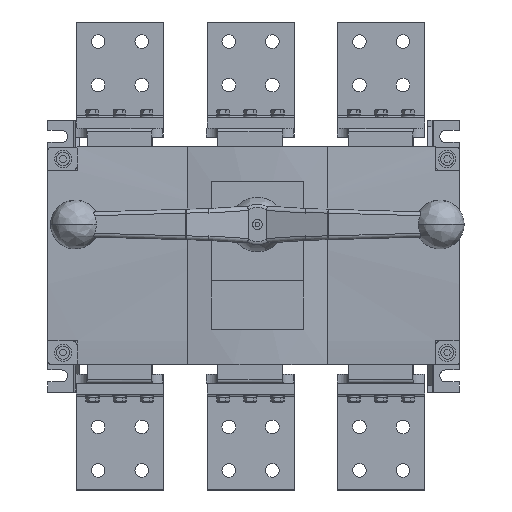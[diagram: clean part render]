
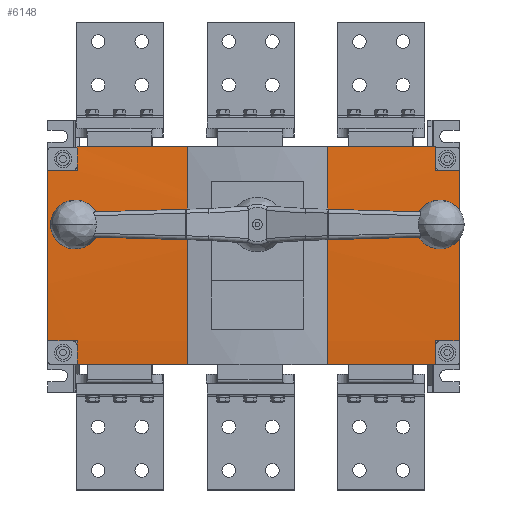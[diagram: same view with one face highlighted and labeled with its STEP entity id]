
A CAD part, top view. The second image highlights one B-rep face of the part: STEP entity #6148.
In plain terms, the highlighted cylindrical face has radius 1252 mm (diameter 2504 mm), a partial arc.
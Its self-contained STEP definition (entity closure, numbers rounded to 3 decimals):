
#5758=CARTESIAN_POINT('',(-167.,0.,-1228.));
#5759=DIRECTION('',(1.,0.,0.));
#5760=DIRECTION('',(0.,-0.062,0.998));
#5761=AXIS2_PLACEMENT_3D('',#5758,#5759,#5760);
#5779=CARTESIAN_POINT('',(-189.,0.,-1228.));
#5780=DIRECTION('',(1.,0.,0.));
#5781=DIRECTION('',(0.,0.062,0.998));
#5782=AXIS2_PLACEMENT_3D('',#5779,#5780,#5781);
#5796=CARTESIAN_POINT('',(-167.,0.,-1228.));
#5797=DIRECTION('',(1.,0.,0.));
#5798=DIRECTION('',(0.,0.08,0.997));
#5799=AXIS2_PLACEMENT_3D('',#5796,#5797,#5798);
#5809=DIRECTION('',(1.,0.,0.));
#5810=VECTOR('',#5809,329.);
#5811=CARTESIAN_POINT('',(-167.,100.,20.));
#5812=LINE('',#5811,#5810);
#5813=DIRECTION('',(1.,0.,0.));
#5814=VECTOR('',#5813,27.);
#5815=CARTESIAN_POINT('',(162.,78.,21.568));
#5816=LINE('',#5815,#5814);
#5817=DIRECTION('',(-1.,0.,0.));
#5818=VECTOR('',#5817,27.);
#5819=CARTESIAN_POINT('',(189.,-78.,21.568));
#5820=LINE('',#5819,#5818);
#5821=DIRECTION('',(-1.,0.,0.));
#5822=VECTOR('',#5821,329.);
#5823=CARTESIAN_POINT('',(162.,-100.,20.));
#5824=LINE('',#5823,#5822);
#5825=DIRECTION('',(-1.,0.,0.));
#5826=VECTOR('',#5825,22.);
#5827=CARTESIAN_POINT('',(-167.,-78.,21.568));
#5828=LINE('',#5827,#5826);
#5829=DIRECTION('',(1.,0.,0.));
#5830=VECTOR('',#5829,22.);
#5831=CARTESIAN_POINT('',(-189.,78.,21.568));
#5832=LINE('',#5831,#5830);
#5833=DIRECTION('',(-1.,0.,0.));
#5834=VECTOR('',#5833,15.);
#5835=CARTESIAN_POINT('',(7.5,-21.,23.824));
#5836=LINE('',#5835,#5834);
#5837=DIRECTION('',(1.,0.,0.));
#5838=VECTOR('',#5837,15.);
#5839=CARTESIAN_POINT('',(-7.5,-36.,23.482));
#5840=LINE('',#5839,#5838);
#5845=CARTESIAN_POINT('',(162.,0.,-1228.));
#5846=DIRECTION('',(-1.,0.,0.));
#5847=DIRECTION('',(0.,0.062,0.998));
#5848=AXIS2_PLACEMENT_3D('',#5845,#5846,#5847);
#5862=CARTESIAN_POINT('',(189.,0.,-1228.));
#5863=DIRECTION('',(-1.,0.,0.));
#5864=DIRECTION('',(0.,-0.062,0.998));
#5865=AXIS2_PLACEMENT_3D('',#5862,#5863,#5864);
#5883=CARTESIAN_POINT('',(162.,0.,-1228.));
#5884=DIRECTION('',(-1.,0.,0.));
#5885=DIRECTION('',(0.,-0.08,0.997));
#5886=AXIS2_PLACEMENT_3D('',#5883,#5884,#5885);
#5896=CARTESIAN_POINT('',(7.5,0.,-1228.));
#5897=DIRECTION('',(1.,0.,0.));
#5898=DIRECTION('',(0.,-0.017,1.));
#5899=AXIS2_PLACEMENT_3D('',#5896,#5897,#5898);
#5909=CARTESIAN_POINT('',(-7.5,0.,-1228.));
#5910=DIRECTION('',(-1.,0.,0.));
#5911=DIRECTION('',(0.,-0.029,1.));
#5912=AXIS2_PLACEMENT_3D('',#5909,#5910,#5911);
#5954=CARTESIAN_POINT('',(-167.,-78.,21.568));
#5955=VERTEX_POINT('',#5954);
#5956=CARTESIAN_POINT('',(-167.,-100.,20.));
#5957=VERTEX_POINT('',#5956);
#5958=CARTESIAN_POINT('',(-189.,-78.,21.568));
#5959=VERTEX_POINT('',#5958);
#5960=CARTESIAN_POINT('',(-189.,78.,21.568));
#5961=VERTEX_POINT('',#5960);
#5962=CARTESIAN_POINT('',(-167.,78.,21.568));
#5963=VERTEX_POINT('',#5962);
#5964=CARTESIAN_POINT('',(-167.,100.,20.));
#5965=VERTEX_POINT('',#5964);
#5966=CARTESIAN_POINT('',(162.,100.,20.));
#5967=VERTEX_POINT('',#5966);
#5968=CARTESIAN_POINT('',(162.,78.,21.568));
#5969=VERTEX_POINT('',#5968);
#5970=CARTESIAN_POINT('',(189.,78.,21.568));
#5971=VERTEX_POINT('',#5970);
#5972=CARTESIAN_POINT('',(189.,-78.,21.568));
#5973=VERTEX_POINT('',#5972);
#5974=CARTESIAN_POINT('',(162.,-78.,21.568));
#5975=VERTEX_POINT('',#5974);
#5976=CARTESIAN_POINT('',(162.,-100.,20.));
#5977=VERTEX_POINT('',#5976);
#5978=CARTESIAN_POINT('',(7.5,-21.,23.824));
#5979=CARTESIAN_POINT('',(7.5,-36.,23.482));
#5980=VERTEX_POINT('',#5978);
#5981=VERTEX_POINT('',#5979);
#5982=CARTESIAN_POINT('',(-7.5,-21.,23.824));
#5983=VERTEX_POINT('',#5982);
#5984=CARTESIAN_POINT('',(-7.5,-36.,23.482));
#5985=VERTEX_POINT('',#5984);
#6113=CARTESIAN_POINT('',(189.,0.,-1228.));
#6114=DIRECTION('',(1.,0.,0.));
#6115=DIRECTION('',(0.,1.,0.));
#6116=AXIS2_PLACEMENT_3D('',#6113,#6114,#6115);
#6117=CYLINDRICAL_SURFACE('',#6116,1252.);
#6118=ORIENTED_EDGE('',*,*,#6104,.T.);
#6120=ORIENTED_EDGE('',*,*,#6119,.F.);
#6122=ORIENTED_EDGE('',*,*,#6121,.T.);
#6124=ORIENTED_EDGE('',*,*,#6123,.F.);
#6126=ORIENTED_EDGE('',*,*,#6125,.T.);
#6128=ORIENTED_EDGE('',*,*,#6127,.F.);
#6130=ORIENTED_EDGE('',*,*,#6129,.T.);
#6131=ORIENTED_EDGE('',*,*,#6036,.F.);
#6132=ORIENTED_EDGE('',*,*,#6051,.T.);
#6133=ORIENTED_EDGE('',*,*,#6066,.F.);
#6134=ORIENTED_EDGE('',*,*,#6079,.T.);
#6135=ORIENTED_EDGE('',*,*,#6093,.F.);
#6136=EDGE_LOOP('',(#6118,#6120,#6122,#6124,#6126,#6128,#6130,#6131,#6132,#6133,
#6134,#6135));
#6137=FACE_OUTER_BOUND('',#6136,.F.);
#6139=ORIENTED_EDGE('',*,*,#6138,.F.);
#6141=ORIENTED_EDGE('',*,*,#6140,.T.);
#6143=ORIENTED_EDGE('',*,*,#6142,.F.);
#6145=ORIENTED_EDGE('',*,*,#6144,.T.);
#6146=EDGE_LOOP('',(#6139,#6141,#6143,#6145));
#6147=FACE_BOUND('',#6146,.F.);
#5762=CIRCLE('',#5761,1252.);
#5783=CIRCLE('',#5782,1252.);
#5800=CIRCLE('',#5799,1252.);
#5849=CIRCLE('',#5848,1252.);
#5866=CIRCLE('',#5865,1252.);
#5887=CIRCLE('',#5886,1252.);
#5900=CIRCLE('',#5899,1252.);
#5913=CIRCLE('',#5912,1252.);
#6036=EDGE_CURVE('',#5955,#5957,#5762,.T.);
#6051=EDGE_CURVE('',#5955,#5959,#5828,.T.);
#6066=EDGE_CURVE('',#5961,#5959,#5783,.T.);
#6079=EDGE_CURVE('',#5961,#5963,#5832,.T.);
#6093=EDGE_CURVE('',#5965,#5963,#5800,.T.);
#6104=EDGE_CURVE('',#5965,#5967,#5812,.T.);
#6119=EDGE_CURVE('',#5969,#5967,#5849,.T.);
#6121=EDGE_CURVE('',#5969,#5971,#5816,.T.);
#6123=EDGE_CURVE('',#5973,#5971,#5866,.T.);
#6125=EDGE_CURVE('',#5973,#5975,#5820,.T.);
#6127=EDGE_CURVE('',#5977,#5975,#5887,.T.);
#6129=EDGE_CURVE('',#5977,#5957,#5824,.T.);
#6138=EDGE_CURVE('',#5980,#5981,#5900,.T.);
#6140=EDGE_CURVE('',#5980,#5983,#5836,.T.);
#6142=EDGE_CURVE('',#5985,#5983,#5913,.T.);
#6144=EDGE_CURVE('',#5985,#5981,#5840,.T.);
#6148=ADVANCED_FACE('',(#6137,#6147),#6117,.T.);
